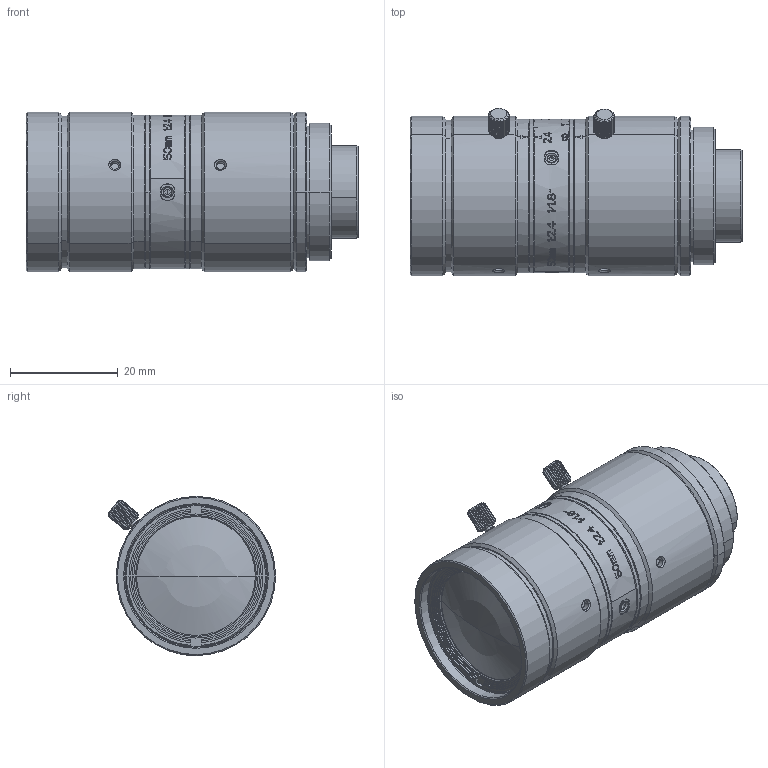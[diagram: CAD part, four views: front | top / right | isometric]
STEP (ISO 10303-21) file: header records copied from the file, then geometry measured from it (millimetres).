
FILE_DESCRIPTION((''),'2;1');
FILE_NAME('MVL-HF5024M-10MP','2020-07-10T15:09:29',('dihaoping'),(''),'CREO PARAMETRIC BY PTC INC, 2017260','CREO PARAMETRIC BY PTC INC, 2017260','');
FILE_SCHEMA(('CONFIG_CONTROL_DESIGN'));
Length unit declared in the file: millimetre
Products named in the file (1): MVL-HF5024M-10MP
Bounding box: 61.49 x 30.96 x 29.5 mm (x, y, z)
Volume: 36461.7 mm3; surface area: 9079.4 mm2
Topology: 1 solids, 3 shells, 1200 faces, 3275 edges, 2162 vertices
Faces by surface type: plane 595, bspline 262, cylinder 229, cone 104, torus 6, sphere 4
Entity records: 46408 total; most frequent: CARTESIAN_POINT 18715, ORIENTED_EDGE 6542, DIRECTION 4491, EDGE_CURVE 3271, VERTEX_POINT 2162, AXIS2_PLACEMENT_3D 1559, VECTOR 1373, LINE 1373
